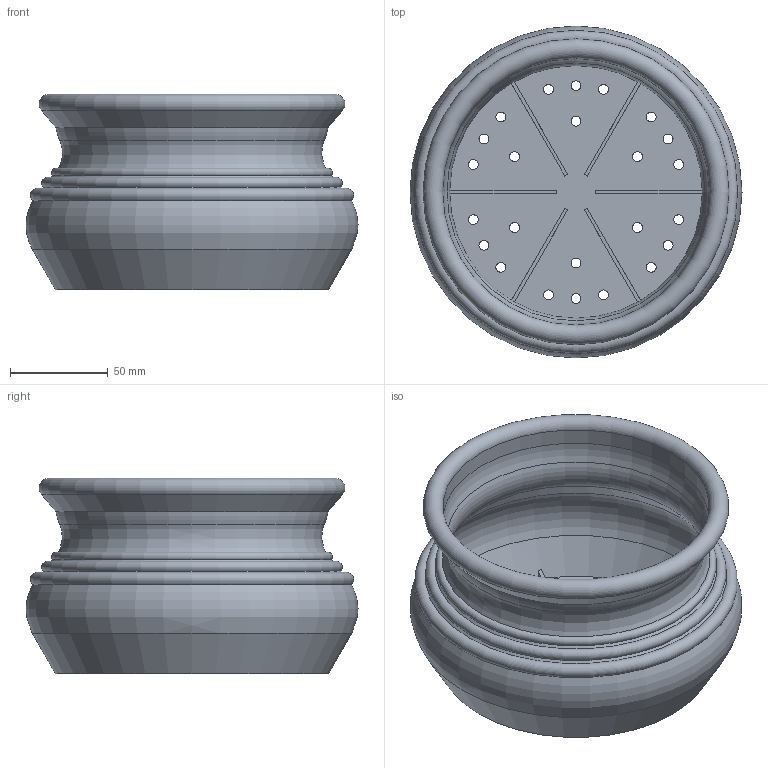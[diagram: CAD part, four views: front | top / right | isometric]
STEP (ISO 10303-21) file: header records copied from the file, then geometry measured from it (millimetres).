
FILE_DESCRIPTION(/* description */ (''),/* implementation_level */ '2;1');
FILE_NAME(/* name */ 'LR2406-S17-H100-D175_step.step',/* time_stamp */ '2024-02-01T11:23:40+01:00',/* author */ (''),/* organization */ (''),/* preprocessor_version */ 'ST-DEVELOPER v20',/* originating_system */ 'Autodesk Translation Framework v12.20.1.177',/* authorisation */ '');
FILE_SCHEMA (('AUTOMOTIVE_DESIGN { 1 0 10303 214 3 1 1 }'));
Length unit declared in the file: millimetre
Products named in the file (1): LR2406-S17-H100-D175
Bounding box: 169.72 x 169.72 x 100 mm (x, y, z)
Volume: 172290.8 mm3; surface area: 142862.2 mm2
Topology: 1 solids, 1 shells, 67 faces, 179 edges, 114 vertices
Faces by surface type: cylinder 31, plane 20, torus 10, cone 6
Full cylindrical faces by diameter (mm): 5 x24, 136.36 x1
Entity records: 2261 total; most frequent: DIRECTION 415, CARTESIAN_POINT 361, ORIENTED_EDGE 358, EDGE_CURVE 179, AXIS2_PLACEMENT_3D 168, EDGE_LOOP 115, VERTEX_POINT 114, CIRCLE 100
